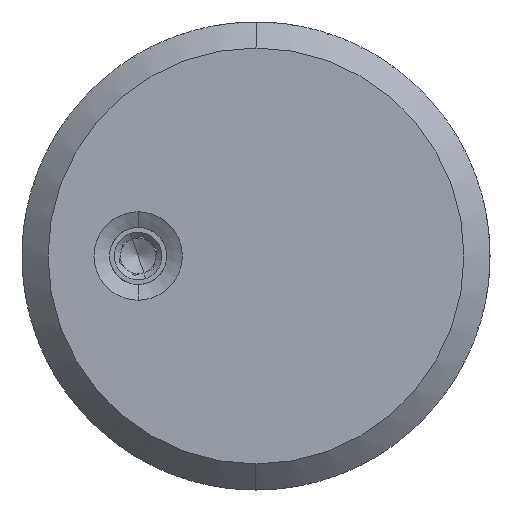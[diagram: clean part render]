
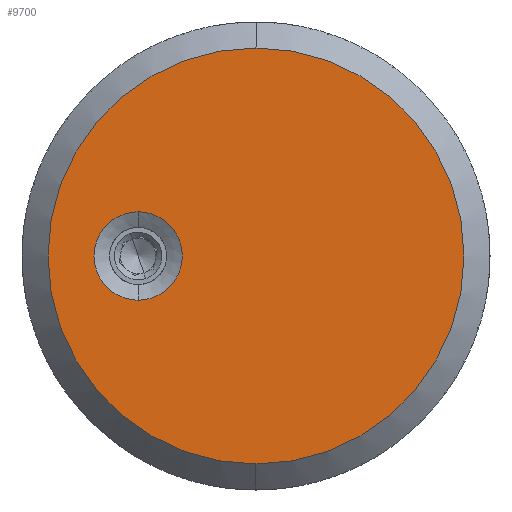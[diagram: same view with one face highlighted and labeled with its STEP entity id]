
A CAD part, left-side view. The second image highlights one B-rep face of the part: STEP entity #9700.
In plain terms, the highlighted planar face has unit normal (-1, 0, 0).
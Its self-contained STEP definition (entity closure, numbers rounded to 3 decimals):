
#134 = CIRCLE ( 'NONE', #10416, 12. ) ;
#1648 = VERTEX_POINT ( 'NONE', #19299 ) ;
#2641 = ORIENTED_EDGE ( 'NONE', *, *, #24870, .T. ) ;
#2782 = AXIS2_PLACEMENT_3D ( 'NONE', #14368, #14339, #14279 ) ;
#4475 = FACE_BOUND ( 'NONE', #17320, .T. ) ;
#4657 = DIRECTION ( 'NONE',  ( 0., 0., 1. ) ) ;
#4678 = DIRECTION ( 'NONE',  ( -1., 0., 0. ) ) ;
#4714 = CARTESIAN_POINT ( 'NONE',  ( 0., 6.8, 0. ) ) ;
#4944 = CIRCLE ( 'NONE', #23209, 12. ) ;
#5446 = CARTESIAN_POINT ( 'NONE',  ( 0., 6.8, 0. ) ) ;
#6076 = AXIS2_PLACEMENT_3D ( 'NONE', #4714, #4678, #4657 ) ;
#6195 = EDGE_CURVE ( 'NONE', #20887, #19159, #10363, .T. ) ;
#6341 = CARTESIAN_POINT ( 'NONE',  ( 0., 6.8, 2.55 ) ) ;
#7474 = DIRECTION ( 'NONE',  ( 0., 0., 1. ) ) ;
#8569 = EDGE_CURVE ( 'NONE', #9300, #1648, #134, .T. ) ;
#9300 = VERTEX_POINT ( 'NONE', #17463 ) ;
#9495 = DIRECTION ( 'NONE',  ( -1., 0., 0. ) ) ;
#9700 = ADVANCED_FACE ( 'NONE', ( #25004, #4475 ), #15123, .T. ) ;
#10363 = CIRCLE ( 'NONE', #6076, 2.55 ) ;
#10416 = AXIS2_PLACEMENT_3D ( 'NONE', #10730, #10712, #10656 ) ;
#10656 = DIRECTION ( 'NONE',  ( 0., 0., 1. ) ) ;
#10712 = DIRECTION ( 'NONE',  ( -1., 0., 0. ) ) ;
#10730 = CARTESIAN_POINT ( 'NONE',  ( 0., 0., 0. ) ) ;
#12851 = EDGE_CURVE ( 'NONE', #19159, #20887, #24976, .T. ) ;
#12892 = AXIS2_PLACEMENT_3D ( 'NONE', #5446, #19364, #7474 ) ;
#14279 = DIRECTION ( 'NONE',  ( 0., 0., 1. ) ) ;
#14339 = DIRECTION ( 'NONE',  ( -1., 0., 0. ) ) ;
#14368 = CARTESIAN_POINT ( 'NONE',  ( 0., 0., 0. ) ) ;
#15123 = PLANE ( 'NONE',  #2782 ) ;
#15129 = EDGE_LOOP ( 'NONE', ( #2641, #23858 ) ) ;
#17320 = EDGE_LOOP ( 'NONE', ( #18271, #20765 ) ) ;
#17463 = CARTESIAN_POINT ( 'NONE',  ( 0., 0., 12. ) ) ;
#18271 = ORIENTED_EDGE ( 'NONE', *, *, #12851, .F. ) ;
#19159 = VERTEX_POINT ( 'NONE', #6341 ) ;
#19299 = CARTESIAN_POINT ( 'NONE',  ( 0., 0., -12. ) ) ;
#19364 = DIRECTION ( 'NONE',  ( -1., 0., 0. ) ) ;
#20079 = CARTESIAN_POINT ( 'NONE',  ( 0., 6.8, -2.55 ) ) ;
#20765 = ORIENTED_EDGE ( 'NONE', *, *, #6195, .F. ) ;
#20887 = VERTEX_POINT ( 'NONE', #20079 ) ;
#21402 = CARTESIAN_POINT ( 'NONE',  ( 0., 0., 0. ) ) ;
#23209 = AXIS2_PLACEMENT_3D ( 'NONE', #21402, #9495, #23405 ) ;
#23405 = DIRECTION ( 'NONE',  ( 0., 0., 1. ) ) ;
#23858 = ORIENTED_EDGE ( 'NONE', *, *, #8569, .T. ) ;
#24870 = EDGE_CURVE ( 'NONE', #1648, #9300, #4944, .T. ) ;
#24976 = CIRCLE ( 'NONE', #12892, 2.55 ) ;
#25004 = FACE_OUTER_BOUND ( 'NONE', #15129, .T. ) ;
